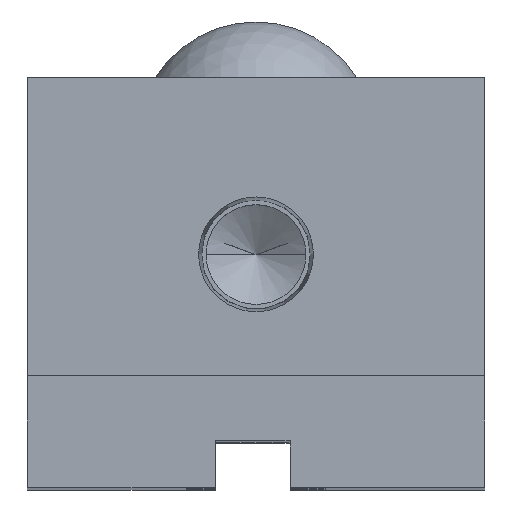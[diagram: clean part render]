
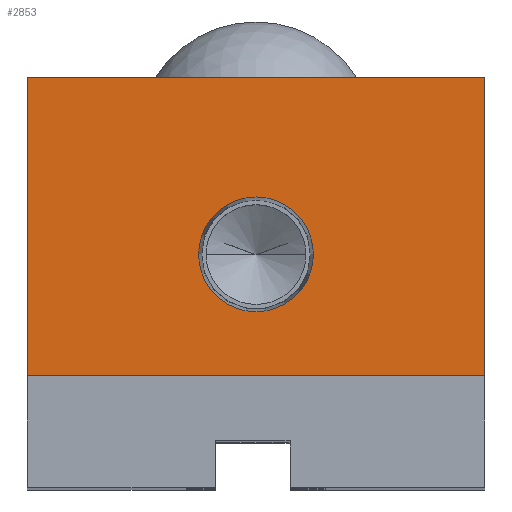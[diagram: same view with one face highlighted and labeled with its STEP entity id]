
A CAD part, top view. The second image highlights one B-rep face of the part: STEP entity #2853.
In plain terms, the highlighted planar face has unit normal (0, 0, 1).
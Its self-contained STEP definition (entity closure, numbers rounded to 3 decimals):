
#3 = CIRCLE ( 'NONE', #1112, 6.154 ) ;
#8 = DIRECTION ( 'NONE',  ( -1., 0., 0. ) ) ;
#36 = EDGE_LOOP ( 'NONE', ( #2776, #1805 ) ) ;
#205 = CARTESIAN_POINT ( 'NONE',  ( 0., 13., 0. ) ) ;
#216 = DIRECTION ( 'NONE',  ( -1., 0., 0. ) ) ;
#239 = LINE ( 'NONE', #1548, #605 ) ;
#276 = EDGE_CURVE ( 'NONE', #298, #1729, #3, .T. ) ;
#287 = EDGE_LOOP ( 'NONE', ( #1514, #2827, #391, #1810 ) ) ;
#298 = VERTEX_POINT ( 'NONE', #499 ) ;
#391 = ORIENTED_EDGE ( 'NONE', *, *, #570, .T. ) ;
#437 = EDGE_CURVE ( 'NONE', #1729, #298, #3281, .T. ) ;
#476 = DIRECTION ( 'NONE',  ( 1., 0., 0. ) ) ;
#499 = CARTESIAN_POINT ( 'NONE',  ( -6.154, 13., 0. ) ) ;
#550 = VECTOR ( 'NONE', #8, 1000. ) ;
#555 = CARTESIAN_POINT ( 'NONE',  ( 24.5, 0., 0. ) ) ;
#563 = VERTEX_POINT ( 'NONE', #1828 ) ;
#570 = EDGE_CURVE ( 'NONE', #2264, #1050, #239, .T. ) ;
#605 = VECTOR ( 'NONE', #2405, 1000. ) ;
#606 = VECTOR ( 'NONE', #3166, 1000. ) ;
#744 = FACE_OUTER_BOUND ( 'NONE', #287, .T. ) ;
#759 = CARTESIAN_POINT ( 'NONE',  ( 0., 0., 0. ) ) ;
#935 = CARTESIAN_POINT ( 'NONE',  ( -24.5, 0., 0. ) ) ;
#936 = CARTESIAN_POINT ( 'NONE',  ( -24.5, 32., 0. ) ) ;
#1044 = PLANE ( 'NONE',  #1737 ) ;
#1050 = VERTEX_POINT ( 'NONE', #1177 ) ;
#1112 = AXIS2_PLACEMENT_3D ( 'NONE', #3277, #1608, #3539 ) ;
#1134 = EDGE_CURVE ( 'NONE', #1959, #563, #2839, .T. ) ;
#1177 = CARTESIAN_POINT ( 'NONE',  ( 24.5, 32., 0. ) ) ;
#1403 = AXIS2_PLACEMENT_3D ( 'NONE', #205, #2154, #476 ) ;
#1514 = ORIENTED_EDGE ( 'NONE', *, *, #1134, .T. ) ;
#1548 = CARTESIAN_POINT ( 'NONE',  ( 24.5, 32., 0. ) ) ;
#1608 = DIRECTION ( 'NONE',  ( 0., 0., 1. ) ) ;
#1664 = DIRECTION ( 'NONE',  ( 1., 0., 0. ) ) ;
#1729 = VERTEX_POINT ( 'NONE', #1861 ) ;
#1737 = AXIS2_PLACEMENT_3D ( 'NONE', #759, #1882, #216 ) ;
#1805 = ORIENTED_EDGE ( 'NONE', *, *, #276, .F. ) ;
#1810 = ORIENTED_EDGE ( 'NONE', *, *, #3376, .T. ) ;
#1828 = CARTESIAN_POINT ( 'NONE',  ( -24.5, 0., 0. ) ) ;
#1861 = CARTESIAN_POINT ( 'NONE',  ( 6.154, 13., 0. ) ) ;
#1882 = DIRECTION ( 'NONE',  ( 0., 0., -1. ) ) ;
#1959 = VERTEX_POINT ( 'NONE', #936 ) ;
#2154 = DIRECTION ( 'NONE',  ( 0., 0., 1. ) ) ;
#2229 = FACE_BOUND ( 'NONE', #36, .T. ) ;
#2264 = VERTEX_POINT ( 'NONE', #2535 ) ;
#2369 = VECTOR ( 'NONE', #1664, 1000. ) ;
#2405 = DIRECTION ( 'NONE',  ( 0., 1., 0. ) ) ;
#2460 = LINE ( 'NONE', #555, #2369 ) ;
#2535 = CARTESIAN_POINT ( 'NONE',  ( 24.5, 0., 0. ) ) ;
#2776 = ORIENTED_EDGE ( 'NONE', *, *, #437, .F. ) ;
#2806 = CARTESIAN_POINT ( 'NONE',  ( -24.5, 32., 0. ) ) ;
#2827 = ORIENTED_EDGE ( 'NONE', *, *, #3031, .T. ) ;
#2839 = LINE ( 'NONE', #935, #606 ) ;
#2853 = ADVANCED_FACE ( 'NONE', ( #2229, #744 ), #1044, .F. ) ;
#3031 = EDGE_CURVE ( 'NONE', #563, #2264, #2460, .T. ) ;
#3166 = DIRECTION ( 'NONE',  ( 0., -1., 0. ) ) ;
#3277 = CARTESIAN_POINT ( 'NONE',  ( 0., 13., 0. ) ) ;
#3281 = CIRCLE ( 'NONE', #1403, 6.154 ) ;
#3376 = EDGE_CURVE ( 'NONE', #1050, #1959, #3497, .T. ) ;
#3497 = LINE ( 'NONE', #2806, #550 ) ;
#3539 = DIRECTION ( 'NONE',  ( 1., 0., 0. ) ) ;
